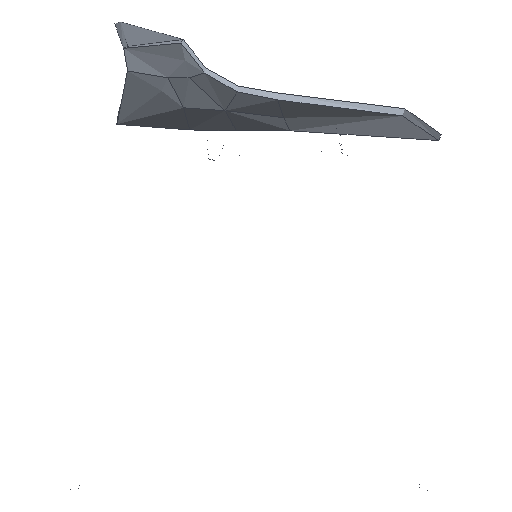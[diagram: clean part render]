
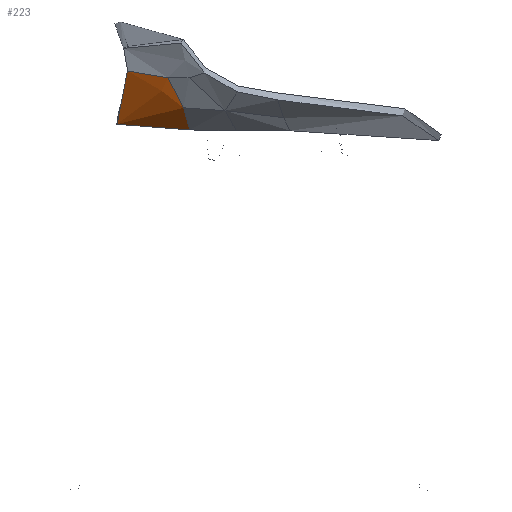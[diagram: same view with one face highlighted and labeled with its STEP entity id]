
A CAD part, left-side view. The second image highlights one B-rep face of the part: STEP entity #223.
In plain terms, the highlighted free-form (B-spline) face has degree [3, 3] with [8, 7] control points.
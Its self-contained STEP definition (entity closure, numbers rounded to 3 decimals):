
#223=ADVANCED_FACE('',(#313),#1372,.T.);
#313=FACE_OUTER_BOUND('',#403,.T.);
#403=EDGE_LOOP('',(#607,#608,#609,#610,#611));
#607=ORIENTED_EDGE('',*,*,#952,.T.);
#608=ORIENTED_EDGE('',*,*,#957,.F.);
#609=ORIENTED_EDGE('',*,*,#961,.T.);
#610=ORIENTED_EDGE('',*,*,#960,.F.);
#611=ORIENTED_EDGE('',*,*,#953,.F.);
#952=EDGE_CURVE('',#1249,#1259,#1166,.T.);
#953=EDGE_CURVE('',#1249,#1250,#1167,.T.);
#957=EDGE_CURVE('',#1263,#1259,#1171,.T.);
#960=EDGE_CURVE('',#1250,#1256,#1174,.T.);
#961=EDGE_CURVE('',#1263,#1256,#1175,.T.);
#1166=B_SPLINE_CURVE_WITH_KNOTS('',3,(#8161,#8162,#8163,#8164,#8165,#8166,
#8167,#8168),.UNSPECIFIED.,.F.,.F.,(4,1,3,4),(-1.,-0.667,-0.333,
0.),.UNSPECIFIED.);
#1167=B_SPLINE_CURVE_WITH_KNOTS('',3,(#8169,#8170,#8171,#8172,#8173,#8174,
#8175,#8176,#8177),.UNSPECIFIED.,.F.,.F.,(4,1,1,1,1,1,4),(-1.,-0.75,-0.5,
-0.375,-0.25,-0.125,0.),.UNSPECIFIED.);
#1171=B_SPLINE_CURVE_WITH_KNOTS('',3,(#8205,#8206,#8207,#8208,#8209,#8210,
#8211),.UNSPECIFIED.,.F.,.F.,(4,1,1,1,4),(-1.,-0.75,-0.5,-0.25,0.),
 .UNSPECIFIED.);
#1174=B_SPLINE_CURVE_WITH_KNOTS('',3,(#8230,#8231,#8232,#8233,#8234,#8235,
#8236,#8237,#8238),.UNSPECIFIED.,.F.,.F.,(4,1,1,1,1,1,4),(-1.,-0.875,-0.75,
-0.625,-0.5,-0.25,0.),.UNSPECIFIED.);
#1175=B_SPLINE_CURVE_WITH_KNOTS('',3,(#8239,#8240,#8241,#8242,#8243,#8244,
#8245,#8246),.UNSPECIFIED.,.F.,.F.,(4,3,1,4),(-1.,-0.667,-0.333,
0.),.UNSPECIFIED.);
#1249=VERTEX_POINT('',#7423);
#1250=VERTEX_POINT('',#7424);
#1256=VERTEX_POINT('',#7430);
#1259=VERTEX_POINT('',#7433);
#1263=VERTEX_POINT('',#7437);
#1372=B_SPLINE_SURFACE_WITH_KNOTS('',3,3,((#5322,#5323,#5324,#5325,#5326,
#5327,#5328),(#5329,#5330,#5331,#5332,#5333,#5334,#5335),(#5336,#5337,#5338,
#5339,#5340,#5341,#5342),(#5343,#5344,#5345,#5346,#5347,#5348,#5349),(#5350,
#5351,#5352,#5353,#5354,#5355,#5356),(#5357,#5358,#5359,#5360,#5361,#5362,
#5363),(#5364,#5365,#5366,#5367,#5368,#5369,#5370),(#5371,#5372,#5373,#5374,
#5375,#5376,#5377)),.UNSPECIFIED.,.F.,.F.,.F.,(4,1,3,4),(4,1,1,1,4),(-2.,
-1.,0.,1.),(-2.,-1.,0.,1.,2.),.UNSPECIFIED.);
#5322=CARTESIAN_POINT('',(-221.75,141.453,520.63));
#5323=CARTESIAN_POINT('',(-219.235,138.069,514.161));
#5324=CARTESIAN_POINT('',(-213.581,130.629,500.993));
#5325=CARTESIAN_POINT('',(-201.883,120.779,482.274));
#5326=CARTESIAN_POINT('',(-185.627,115.57,466.317));
#5327=CARTESIAN_POINT('',(-172.377,114.221,458.154));
#5328=CARTESIAN_POINT('',(-165.306,113.836,454.85));
#5329=CARTESIAN_POINT('',(-220.903,146.316,521.035));
#5330=CARTESIAN_POINT('',(-218.509,143.299,514.704));
#5331=CARTESIAN_POINT('',(-213.148,136.763,501.844));
#5332=CARTESIAN_POINT('',(-201.89,128.295,483.372));
#5333=CARTESIAN_POINT('',(-185.919,124.009,467.127));
#5334=CARTESIAN_POINT('',(-172.74,123.081,458.644));
#5335=CARTESIAN_POINT('',(-165.671,122.884,455.206));
#5336=CARTESIAN_POINT('',(-219.102,156.168,522.165));
#5337=CARTESIAN_POINT('',(-216.952,153.839,516.117));
#5338=CARTESIAN_POINT('',(-212.148,148.935,503.843));
#5339=CARTESIAN_POINT('',(-201.722,142.886,485.778));
#5340=CARTESIAN_POINT('',(-186.365,140.184,468.941));
#5341=CARTESIAN_POINT('',(-173.38,140.04,459.812));
#5342=CARTESIAN_POINT('',(-166.336,140.24,456.09));
#5343=CARTESIAN_POINT('',(-217.198,165.405,523.669));
#5344=CARTESIAN_POINT('',(-215.278,163.642,517.901));
#5345=CARTESIAN_POINT('',(-210.961,160.034,506.143));
#5346=CARTESIAN_POINT('',(-201.256,155.928,488.37));
#5347=CARTESIAN_POINT('',(-186.523,154.684,470.987));
#5348=CARTESIAN_POINT('',(-173.804,155.416,461.251));
#5349=CARTESIAN_POINT('',(-166.833,156.087,457.245));
#5350=CARTESIAN_POINT('',(-216.246,169.653,524.449));
#5351=CARTESIAN_POINT('',(-214.435,168.137,518.814));
#5352=CARTESIAN_POINT('',(-210.342,165.095,507.295));
#5353=CARTESIAN_POINT('',(-200.965,161.895,489.652));
#5354=CARTESIAN_POINT('',(-186.527,161.448,472.028));
#5355=CARTESIAN_POINT('',(-173.951,162.692,462.013));
#5356=CARTESIAN_POINT('',(-167.031,163.626,457.871));
#5357=CARTESIAN_POINT('',(-214.343,178.15,526.009));
#5358=CARTESIAN_POINT('',(-212.749,177.126,520.641));
#5359=CARTESIAN_POINT('',(-209.104,175.216,509.599));
#5360=CARTESIAN_POINT('',(-200.384,173.829,492.218));
#5361=CARTESIAN_POINT('',(-186.533,174.977,474.11));
#5362=CARTESIAN_POINT('',(-174.244,177.244,463.538));
#5363=CARTESIAN_POINT('',(-167.427,178.705,459.122));
#5364=CARTESIAN_POINT('',(-212.443,185.165,527.683));
#5365=CARTESIAN_POINT('',(-211.039,184.484,522.553));
#5366=CARTESIAN_POINT('',(-207.763,183.382,511.911));
#5367=CARTESIAN_POINT('',(-199.574,183.546,494.731));
#5368=CARTESIAN_POINT('',(-186.238,186.566,476.266));
#5369=CARTESIAN_POINT('',(-174.278,190.149,465.232));
#5370=CARTESIAN_POINT('',(-167.621,192.249,460.567));
#5371=CARTESIAN_POINT('',(-210.543,192.181,529.356));
#5372=CARTESIAN_POINT('',(-209.328,191.843,524.465));
#5373=CARTESIAN_POINT('',(-206.421,191.548,514.223));
#5374=CARTESIAN_POINT('',(-198.764,193.263,497.245));
#5375=CARTESIAN_POINT('',(-185.943,198.155,478.422));
#5376=CARTESIAN_POINT('',(-174.312,203.053,466.927));
#5377=CARTESIAN_POINT('',(-167.815,205.792,462.013));
#7423=CARTESIAN_POINT('',(-221.75,141.453,520.63));
#7424=CARTESIAN_POINT('',(-201.123,121.553,482.734));
#7430=CARTESIAN_POINT('',(-165.306,113.836,454.85));
#7433=CARTESIAN_POINT('',(-210.543,192.181,529.356));
#7437=CARTESIAN_POINT('',(-167.815,205.792,462.013));
#8161=CARTESIAN_POINT('',(-221.75,141.453,520.63));
#8162=CARTESIAN_POINT('',(-220.903,146.316,521.035));
#8163=CARTESIAN_POINT('',(-219.102,156.168,522.165));
#8164=CARTESIAN_POINT('',(-217.198,165.405,523.669));
#8165=CARTESIAN_POINT('',(-216.246,169.653,524.449));
#8166=CARTESIAN_POINT('',(-214.343,178.15,526.009));
#8167=CARTESIAN_POINT('',(-212.443,185.165,527.683));
#8168=CARTESIAN_POINT('',(-210.543,192.181,529.356));
#8169=CARTESIAN_POINT('',(-221.75,141.453,520.63));
#8170=CARTESIAN_POINT('',(-220.493,139.761,517.396));
#8171=CARTESIAN_POINT('',(-217.822,136.209,510.869));
#8172=CARTESIAN_POINT('',(-213.953,131.695,502.747));
#8173=CARTESIAN_POINT('',(-210.456,128.248,496.378));
#8174=CARTESIAN_POINT('',(-207.611,125.797,491.693));
#8175=CARTESIAN_POINT('',(-204.523,123.532,487.126));
#8176=CARTESIAN_POINT('',(-202.288,122.18,484.179));
#8177=CARTESIAN_POINT('',(-201.123,121.553,482.734));
#8205=CARTESIAN_POINT('',(-167.815,205.792,462.013));
#8206=CARTESIAN_POINT('',(-174.312,203.053,466.927));
#8207=CARTESIAN_POINT('',(-185.943,198.155,478.422));
#8208=CARTESIAN_POINT('',(-198.764,193.263,497.245));
#8209=CARTESIAN_POINT('',(-206.421,191.548,514.223));
#8210=CARTESIAN_POINT('',(-209.328,191.843,524.465));
#8211=CARTESIAN_POINT('',(-210.543,192.181,529.356));
#8230=CARTESIAN_POINT('',(-201.123,121.553,482.734));
#8231=CARTESIAN_POINT('',(-199.959,120.925,481.29));
#8232=CARTESIAN_POINT('',(-197.534,119.767,478.457));
#8233=CARTESIAN_POINT('',(-193.627,118.297,474.397));
#8234=CARTESIAN_POINT('',(-189.465,117.071,470.538));
#8235=CARTESIAN_POINT('',(-183.594,115.733,465.684));
#8236=CARTESIAN_POINT('',(-175.69,114.559,460.195));
#8237=CARTESIAN_POINT('',(-168.841,114.029,456.502));
#8238=CARTESIAN_POINT('',(-165.306,113.836,454.85));
#8239=CARTESIAN_POINT('',(-167.815,205.792,462.013));
#8240=CARTESIAN_POINT('',(-167.621,192.249,460.567));
#8241=CARTESIAN_POINT('',(-167.427,178.705,459.122));
#8242=CARTESIAN_POINT('',(-167.031,163.626,457.871));
#8243=CARTESIAN_POINT('',(-166.833,156.087,457.245));
#8244=CARTESIAN_POINT('',(-166.336,140.24,456.09));
#8245=CARTESIAN_POINT('',(-165.671,122.884,455.206));
#8246=CARTESIAN_POINT('',(-165.306,113.836,454.85));
